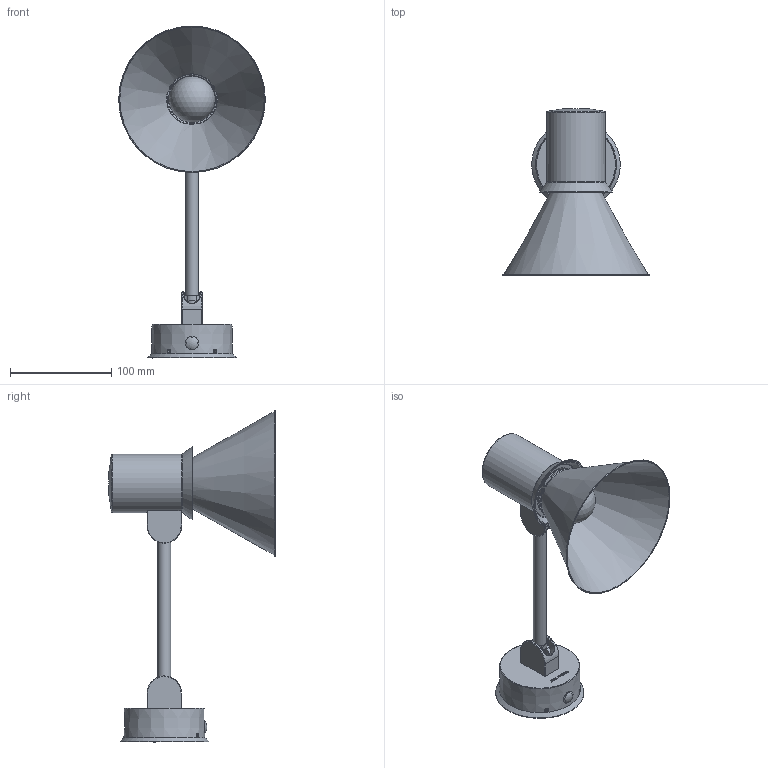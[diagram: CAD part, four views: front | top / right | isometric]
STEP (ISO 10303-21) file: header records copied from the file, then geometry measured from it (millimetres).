
FILE_DESCRIPTION(/* description */ (''),/* implementation_level */ '2;1');
FILE_NAME(/* name */ 'C:/Users/tfalope/Desktop/tech file/Type_80_W2_Wall_Light_STEP_01 v2.step',/* time_stamp */ '2021-10-11T19:20:30+01:00',/* author */ (''),/* organization */ (''),/* preprocessor_version */ 'ST-DEVELOPER v18.1',/* originating_system */ 'Autodesk Translation Framework v10.10.0.1391',/* authorisation */ '');
FILE_SCHEMA (('AUTOMOTIVE_DESIGN { 1 0 10303 214 3 1 1 }'));
Length unit declared in the file: millimetre
Products named in the file (2): Type_80_W2_Wall_Light_STEP_01; Component21
Assembly tree (1 placements, depth 2):
  Type_80_W2_Wall_Light_STEP_01
    Component21
Bounding box: 144.64 x 164.14 x 327.53 mm (x, y, z)
Volume: 483995.3 mm3; surface area: 135289.5 mm2
Topology: 1 solids, 2 shells, 389 faces, 1010 edges, 649 vertices
Faces by surface type: plane 195, bspline 76, cylinder 55, cone 46, torus 11, sphere 6
Full cylindrical faces by diameter (mm): 4.2 x2, 5 x4, 11 x1, 12.7 x1, 20.1 x1, 20.8 x1, 26 x1, 40 x1, 57.712 x1, 73.452 x1, 87.4 x1
Entity records: 15198 total; most frequent: CARTESIAN_POINT 6062, ORIENTED_EDGE 2008, DIRECTION 1685, EDGE_CURVE 1004, VERTEX_POINT 649, AXIS2_PLACEMENT_3D 567, LINE 551, VECTOR 551
